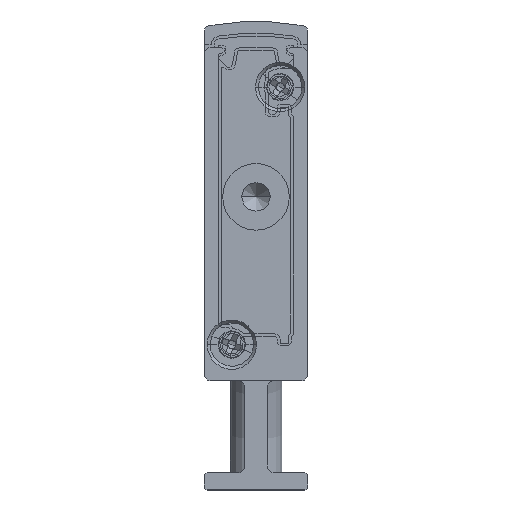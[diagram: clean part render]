
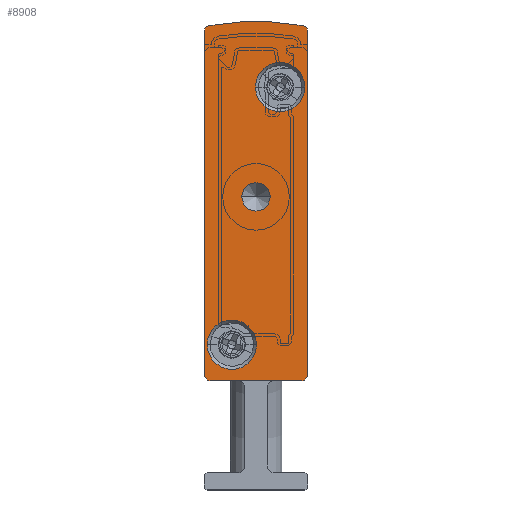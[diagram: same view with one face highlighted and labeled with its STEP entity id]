
A CAD part, front view. The second image highlights one B-rep face of the part: STEP entity #8908.
In plain terms, the highlighted planar face has unit normal (0, -1, 0).
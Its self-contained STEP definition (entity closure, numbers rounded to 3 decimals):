
#29 = EDGE_CURVE ( 'NONE', #5395, #10352, #16040, .T. ) ;
#712 = CARTESIAN_POINT ( 'NONE',  ( 0.5, -2.5, 10. ) ) ;
#801 = AXIS2_PLACEMENT_3D ( 'NONE', #11048, #15616, #3476 ) ;
#872 = CARTESIAN_POINT ( 'NONE',  ( 0.5, -2.5, 9.5 ) ) ;
#890 = CARTESIAN_POINT ( 'NONE',  ( 8.5, -2.5, 9.5 ) ) ;
#902 = DIRECTION ( 'NONE',  ( 0., -1., 0. ) ) ;
#1202 = CARTESIAN_POINT ( 'NONE',  ( 5.75, -2.5, 25.5 ) ) ;
#1516 = CARTESIAN_POINT ( 'NONE',  ( 8.5, -2.5, 10. ) ) ;
#1597 = DIRECTION ( 'NONE',  ( 0., 1., 0. ) ) ;
#1670 = DIRECTION ( 'NONE',  ( 1., 0., 0. ) ) ;
#1776 = ORIENTED_EDGE ( 'NONE', *, *, #11046, .F. ) ;
#1969 = FACE_BOUND ( 'NONE', #7473, .T. ) ;
#2301 = CARTESIAN_POINT ( 'NONE',  ( 0.408, -2.5, 40.393 ) ) ;
#2590 = EDGE_CURVE ( 'NONE', #3831, #5395, #5499, .T. ) ;
#2976 = CARTESIAN_POINT ( 'NONE',  ( 9., -2.5, 10. ) ) ;
#3187 = LINE ( 'NONE', #15954, #17650 ) ;
#3476 = DIRECTION ( 'NONE',  ( -1., 0., 0. ) ) ;
#3531 = DIRECTION ( 'NONE',  ( -1., 0., 0. ) ) ;
#3695 = VERTEX_POINT ( 'NONE', #9901 ) ;
#3831 = VERTEX_POINT ( 'NONE', #19321 ) ;
#3931 = CIRCLE ( 'NONE', #11147, 1.25 ) ;
#3999 = DIRECTION ( 'NONE',  ( 1., 0., 0. ) ) ;
#4003 = DIRECTION ( 'NONE',  ( 0., 0., -1. ) ) ;
#4028 = CIRCLE ( 'NONE', #19196, 0.5 ) ;
#4148 = AXIS2_PLACEMENT_3D ( 'NONE', #16458, #1597, #11987 ) ;
#4171 = ORIENTED_EDGE ( 'NONE', *, *, #14715, .F. ) ;
#4215 = ORIENTED_EDGE ( 'NONE', *, *, #15380, .F. ) ;
#4451 = AXIS2_PLACEMENT_3D ( 'NONE', #10283, #13442, #10351 ) ;
#4455 = VERTEX_POINT ( 'NONE', #872 ) ;
#4673 = CARTESIAN_POINT ( 'NONE',  ( 4.5, -2.5, 17.092 ) ) ;
#4792 = DIRECTION ( 'NONE',  ( 0., 1., 0. ) ) ;
#4899 = EDGE_CURVE ( 'NONE', #4455, #3831, #5305, .T. ) ;
#5201 = EDGE_CURVE ( 'NONE', #7053, #4455, #5285, .T. ) ;
#5277 = CARTESIAN_POINT ( 'NONE',  ( 9., -2.5, 39.902 ) ) ;
#5285 = LINE ( 'NONE', #6809, #8832 ) ;
#5305 = CIRCLE ( 'NONE', #13667, 0.5 ) ;
#5395 = VERTEX_POINT ( 'NONE', #18050 ) ;
#5499 = LINE ( 'NONE', #11012, #6907 ) ;
#5712 = ORIENTED_EDGE ( 'NONE', *, *, #8648, .F. ) ;
#6163 = AXIS2_PLACEMENT_3D ( 'NONE', #10960, #6634, #17227 ) ;
#6241 = ORIENTED_EDGE ( 'NONE', *, *, #7776, .T. ) ;
#6306 = AXIS2_PLACEMENT_3D ( 'NONE', #17773, #11909, #3999 ) ;
#6386 = CARTESIAN_POINT ( 'NONE',  ( 4.5, -2.5, 25.5 ) ) ;
#6416 = CIRCLE ( 'NONE', #6306, 2.15 ) ;
#6634 = DIRECTION ( 'NONE',  ( 0., 1., 0. ) ) ;
#6718 = CIRCLE ( 'NONE', #4451, 2.15 ) ;
#6809 = CARTESIAN_POINT ( 'NONE',  ( 0.5, -2.5, 9.5 ) ) ;
#6907 = VECTOR ( 'NONE', #15831, 1000. ) ;
#7053 = VERTEX_POINT ( 'NONE', #890 ) ;
#7303 = ORIENTED_EDGE ( 'NONE', *, *, #15770, .F. ) ;
#7353 = AXIS2_PLACEMENT_3D ( 'NONE', #18535, #15500, #7922 ) ;
#7379 = CIRCLE ( 'NONE', #19374, 2.15 ) ;
#7473 = EDGE_LOOP ( 'NONE', ( #4215, #8569 ) ) ;
#7614 = EDGE_CURVE ( 'NONE', #15602, #10594, #11790, .T. ) ;
#7619 = DIRECTION ( 'NONE',  ( 0., 1., 0. ) ) ;
#7703 = DIRECTION ( 'NONE',  ( -1., 0., 0. ) ) ;
#7716 = DIRECTION ( 'NONE',  ( -1., 0., 0. ) ) ;
#7776 = EDGE_CURVE ( 'NONE', #10594, #15602, #3931, .T. ) ;
#7922 = DIRECTION ( 'NONE',  ( -1., 0., 0. ) ) ;
#8054 = EDGE_CURVE ( 'NONE', #3695, #8342, #7379, .T. ) ;
#8167 = VERTEX_POINT ( 'NONE', #10459 ) ;
#8179 = ORIENTED_EDGE ( 'NONE', *, *, #4899, .F. ) ;
#8190 = EDGE_LOOP ( 'NONE', ( #15987, #6241 ) ) ;
#8290 = DIRECTION ( 'NONE',  ( 0., 1., 0. ) ) ;
#8342 = VERTEX_POINT ( 'NONE', #12343 ) ;
#8569 = ORIENTED_EDGE ( 'NONE', *, *, #17596, .F. ) ;
#8648 = EDGE_CURVE ( 'NONE', #11406, #19557, #3187, .T. ) ;
#8832 = VECTOR ( 'NONE', #17412, 1000. ) ;
#8887 = FACE_OUTER_BOUND ( 'NONE', #17587, .T. ) ;
#8908 = ADVANCED_FACE ( 'NONE', ( #17865, #1969, #8887, #12468 ), #8928, .F. ) ;
#8928 = PLANE ( 'NONE',  #4148 ) ;
#9167 = DIRECTION ( 'NONE',  ( -1., 0., 0. ) ) ;
#9740 = AXIS2_PLACEMENT_3D ( 'NONE', #4673, #16802, #7716 ) ;
#9844 = AXIS2_PLACEMENT_3D ( 'NONE', #13024, #902, #17476 ) ;
#9901 = CARTESIAN_POINT ( 'NONE',  ( 4.45, -2.5, 35.05 ) ) ;
#10168 = CIRCLE ( 'NONE', #9844, 2.15 ) ;
#10283 = CARTESIAN_POINT ( 'NONE',  ( 6.6, -2.5, 35.05 ) ) ;
#10351 = DIRECTION ( 'NONE',  ( 1., 0., 0. ) ) ;
#10352 = VERTEX_POINT ( 'NONE', #2301 ) ;
#10459 = CARTESIAN_POINT ( 'NONE',  ( 4.55, -2.5, 12.65 ) ) ;
#10502 = ORIENTED_EDGE ( 'NONE', *, *, #5201, .F. ) ;
#10594 = VERTEX_POINT ( 'NONE', #1202 ) ;
#10960 = CARTESIAN_POINT ( 'NONE',  ( 8.5, -2.5, 39.902 ) ) ;
#11012 = CARTESIAN_POINT ( 'NONE',  ( 0., -2.5, 39.902 ) ) ;
#11046 = EDGE_CURVE ( 'NONE', #8342, #3695, #6718, .T. ) ;
#11048 = CARTESIAN_POINT ( 'NONE',  ( 4.5, -2.5, 25.5 ) ) ;
#11147 = AXIS2_PLACEMENT_3D ( 'NONE', #6386, #4792, #7703 ) ;
#11340 = VERTEX_POINT ( 'NONE', #14099 ) ;
#11406 = VERTEX_POINT ( 'NONE', #5277 ) ;
#11484 = ORIENTED_EDGE ( 'NONE', *, *, #8054, .F. ) ;
#11790 = CIRCLE ( 'NONE', #801, 1.25 ) ;
#11809 = ORIENTED_EDGE ( 'NONE', *, *, #2590, .F. ) ;
#11909 = DIRECTION ( 'NONE',  ( 0., -1., 0. ) ) ;
#11987 = DIRECTION ( 'NONE',  ( -1., 0., 0. ) ) ;
#12259 = DIRECTION ( 'NONE',  ( 0., -1., 0. ) ) ;
#12343 = CARTESIAN_POINT ( 'NONE',  ( 8.75, -2.5, 35.05 ) ) ;
#12468 = FACE_BOUND ( 'NONE', #8190, .T. ) ;
#13024 = CARTESIAN_POINT ( 'NONE',  ( 2.4, -2.5, 12.65 ) ) ;
#13442 = DIRECTION ( 'NONE',  ( 0., -1., 0. ) ) ;
#13633 = CARTESIAN_POINT ( 'NONE',  ( 0.25, -2.5, 12.65 ) ) ;
#13667 = AXIS2_PLACEMENT_3D ( 'NONE', #712, #8290, #3531 ) ;
#14099 = CARTESIAN_POINT ( 'NONE',  ( 8.592, -2.5, 40.393 ) ) ;
#14715 = EDGE_CURVE ( 'NONE', #11340, #11406, #19517, .T. ) ;
#14879 = ORIENTED_EDGE ( 'NONE', *, *, #29, .F. ) ;
#14999 = EDGE_LOOP ( 'NONE', ( #1776, #11484 ) ) ;
#15380 = EDGE_CURVE ( 'NONE', #8167, #17844, #10168, .T. ) ;
#15500 = DIRECTION ( 'NONE',  ( 0., 1., 0. ) ) ;
#15602 = VERTEX_POINT ( 'NONE', #16673 ) ;
#15616 = DIRECTION ( 'NONE',  ( 0., 1., 0. ) ) ;
#15770 = EDGE_CURVE ( 'NONE', #10352, #11340, #17266, .T. ) ;
#15831 = DIRECTION ( 'NONE',  ( 0., 0., 1. ) ) ;
#15954 = CARTESIAN_POINT ( 'NONE',  ( 9., -2.5, 39.902 ) ) ;
#15987 = ORIENTED_EDGE ( 'NONE', *, *, #7614, .T. ) ;
#16040 = CIRCLE ( 'NONE', #7353, 0.5 ) ;
#16458 = CARTESIAN_POINT ( 'NONE',  ( 0.5, -2.5, 39.902 ) ) ;
#16571 = EDGE_CURVE ( 'NONE', #19557, #7053, #4028, .T. ) ;
#16661 = CARTESIAN_POINT ( 'NONE',  ( 6.6, -2.5, 35.05 ) ) ;
#16673 = CARTESIAN_POINT ( 'NONE',  ( 3.25, -2.5, 25.5 ) ) ;
#16802 = DIRECTION ( 'NONE',  ( 0., 1., 0. ) ) ;
#17227 = DIRECTION ( 'NONE',  ( -1., 0., 0. ) ) ;
#17266 = CIRCLE ( 'NONE', #9740, 23.658 ) ;
#17412 = DIRECTION ( 'NONE',  ( -1., 0., 0. ) ) ;
#17476 = DIRECTION ( 'NONE',  ( 1., 0., 0. ) ) ;
#17587 = EDGE_LOOP ( 'NONE', ( #14879, #11809, #8179, #10502, #17728, #5712, #4171, #7303 ) ) ;
#17596 = EDGE_CURVE ( 'NONE', #17844, #8167, #6416, .T. ) ;
#17650 = VECTOR ( 'NONE', #4003, 1000. ) ;
#17728 = ORIENTED_EDGE ( 'NONE', *, *, #16571, .F. ) ;
#17773 = CARTESIAN_POINT ( 'NONE',  ( 2.4, -2.5, 12.65 ) ) ;
#17844 = VERTEX_POINT ( 'NONE', #13633 ) ;
#17865 = FACE_BOUND ( 'NONE', #14999, .T. ) ;
#18050 = CARTESIAN_POINT ( 'NONE',  ( 0., -2.5, 39.902 ) ) ;
#18535 = CARTESIAN_POINT ( 'NONE',  ( 0.5, -2.5, 39.902 ) ) ;
#19196 = AXIS2_PLACEMENT_3D ( 'NONE', #1516, #7619, #9167 ) ;
#19321 = CARTESIAN_POINT ( 'NONE',  ( 0., -2.5, 10. ) ) ;
#19374 = AXIS2_PLACEMENT_3D ( 'NONE', #16661, #12259, #1670 ) ;
#19517 = CIRCLE ( 'NONE', #6163, 0.5 ) ;
#19557 = VERTEX_POINT ( 'NONE', #2976 ) ;
